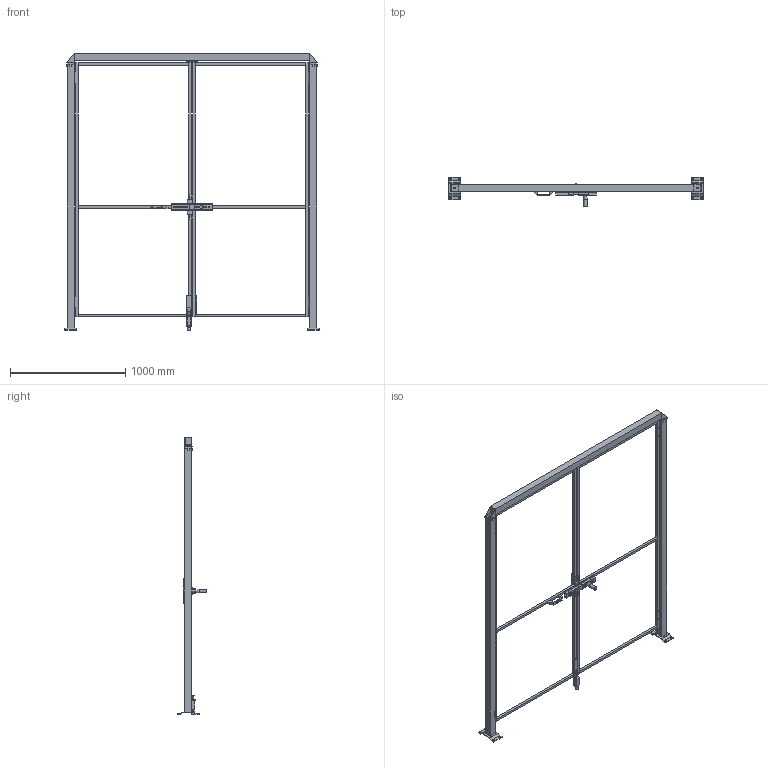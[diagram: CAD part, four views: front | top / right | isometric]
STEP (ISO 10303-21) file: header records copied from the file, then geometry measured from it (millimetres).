
FILE_DESCRIPTION(/* description */ (''),/* implementation_level */ '2;1');
FILE_NAME(/* name */ 'C:\SafeGuarding\ELABORATI\VZOR§DVOUKŘÍDLÉ_2025-02-03-08-07-15.stp',/* time_stamp */ '2025-02-03T08:07:16+01:00',/* author */ ('admin'),/* organization */ (''),/* preprocessor_version */ 'ST-DEVELOPER v18.1',/* originating_system */ 'AutoCAD Mechanical',/* authorisation */ '');
FILE_SCHEMA (('AUTOMOTIVE_DESIGN { 1 0 10303 214 3 1 1 }'));
Length unit declared in the file: millimetre
Products named in the file (5): Product; *U4; DATI_PORTA; P_VFMA.ME60SDU.2320; R_VFPA.REPE20.10002200
Assembly tree (6 placements, depth 2):
  Product
    P_VFMA.ME60SDU.2320  x2
    *U4
    DATI_PORTA
    R_VFPA.REPE20.10002200  x2
Bounding box: 2205 x 255.73 x 2400.5 mm (x, y, z)
Volume: 30979034.6 mm3; surface area: 3356567.4 mm2
Topology: 35 solids, 46 shells, 428 faces, 1400 edges, 1377 vertices
Faces by surface type: plane 384, cylinder 42, cone 2
Full cylindrical faces by diameter (mm): 11 x25, 12 x1, 14 x2, 24 x1, 30 x1
Entity records: 12409 total; most frequent: CARTESIAN_POINT 2649, DIRECTION 1883, ORIENTED_EDGE 1748, EDGE_CURVE 923, LINE 865, VECTOR 865, VERTEX_POINT 651, AXIS2_PLACEMENT_3D 509
